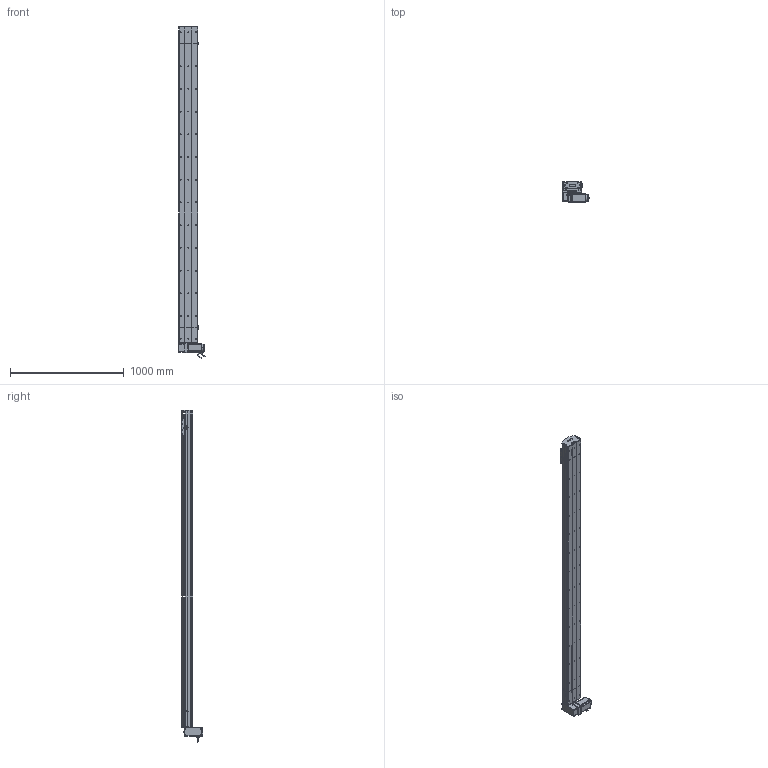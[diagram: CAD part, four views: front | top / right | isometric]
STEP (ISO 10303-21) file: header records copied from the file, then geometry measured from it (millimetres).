
FILE_DESCRIPTION (( 'STEP AP214' ), '1' );
FILE_NAME ('D17 TBH RU S2500.STEP', '2010-06-30T08:45:39', ( 'Christophe Gaillard' ), ( 'SGA' ), 'SwSTEP 2.0', 'SolidWorks 2010', '' );
FILE_SCHEMA (( 'AUTOMOTIVE_DESIGN' ));
Length unit declared in the file: millimetre
Products named in the file (40): cache D17_Default; couroie head D17_Default; Plaque racord D17_Default; avant 90BLDC125A-640; corps 90BLDC125A-640; Tail D17B+100_Default; vis M5 L16_Default; Moteur motionking 90BLDC125A-640; plaque de  bout head D17B RU_Default; vis M5 L70_Default; Renvoi RU_Default; D17 TBH RU S2500; codeur 90BLDC125-640; Arbre+rail head D17B; plaque de  bout tail D17B_Default; poulie head_Default; Vis M5 L16-2_Default; tete d''axe poulie D17B; corp tail D17B+100_Default; Conecteur_Default; cache arbre D17_Default; Rail D17B; vis M5 L5_Default; Conecteur2_Default; corpl head D17 _Default; Head RU D17B_Default; course 2500 D17B_Default; couvercle D17B course L2500_Default; corp D17B 2500_Default; Couroie+ rail D17 Course 2500 ; couvercle D17B head_Default; vis M5 L8 90°_Default; couvercle D17B_Default; Couroie tail D17B_Default; poulie tail_Default; Chariot D17; chariot D17S_Default; vis M5 L25_Default; vis M5 L12_Default; guide D17
Assembly tree (70 placements, depth 4):
  D17 TBH RU S2500
    chariot D17S_Default
      vis M5 L12_Default  x4
      guide D17  x2
      Chariot D17
    course 2500 D17B_Default
      corp D17B 2500_Default
      Couroie+ rail D17 Course 2500 
      couvercle D17B course L2500_Default
    Tail D17B+100_Default
      Rail D17B
      tete d''axe poulie D17B
      Couroie tail D17B_Default
      vis M5 L12_Default  x4
      vis M5 L25_Default  x2
      vis M5 L8 90°_Default  x2
      corp tail D17B+100_Default
      plaque de  bout tail D17B_Default
      poulie tail_Default
      couvercle D17B_Default
    Head RU D17B_Default
      Vis M5 L16-2_Default  x4
      vis M5 L70_Default  x4
      Moteur motionking 90BLDC125A-640
        corps 90BLDC125A-640
        Conecteur_Default
        codeur 90BLDC125-640
        Conecteur2_Default
        avant 90BLDC125A-640
      vis M5 L12_Default  x8
      vis M5 L5_Default  x4
      Renvoi RU_Default
      vis M5 L25_Default  x2
      plaque de  bout head D17B RU_Default
      cache arbre D17_Default
      corpl head D17 _Default
      vis M5 L16_Default  x2
      couroie head D17_Default
      cache D17_Default  x2
      Plaque racord D17_Default
      couvercle D17B head_Default
      poulie head_Default
      Arbre+rail head D17B
Bounding box: 245.2 x 188.65 x 2923.95 mm (x, y, z)
Volume: 16906443.9 mm3; surface area: 4897271 mm2
Topology: 94 solids, 94 shells, 2753 faces, 7015 edges, 4514 vertices
Faces by surface type: plane 1611, cylinder 829, bspline 136, cone 88, torus 85, sphere 4
Entity records: 86986 total; most frequent: CARTESIAN_POINT 25531, ORIENTED_EDGE 10802, DIRECTION 10230, EDGE_CURVE 5401, VERTEX_POINT 3538, LINE 3536, VECTOR 3536, AXIS2_PLACEMENT_3D 3347
